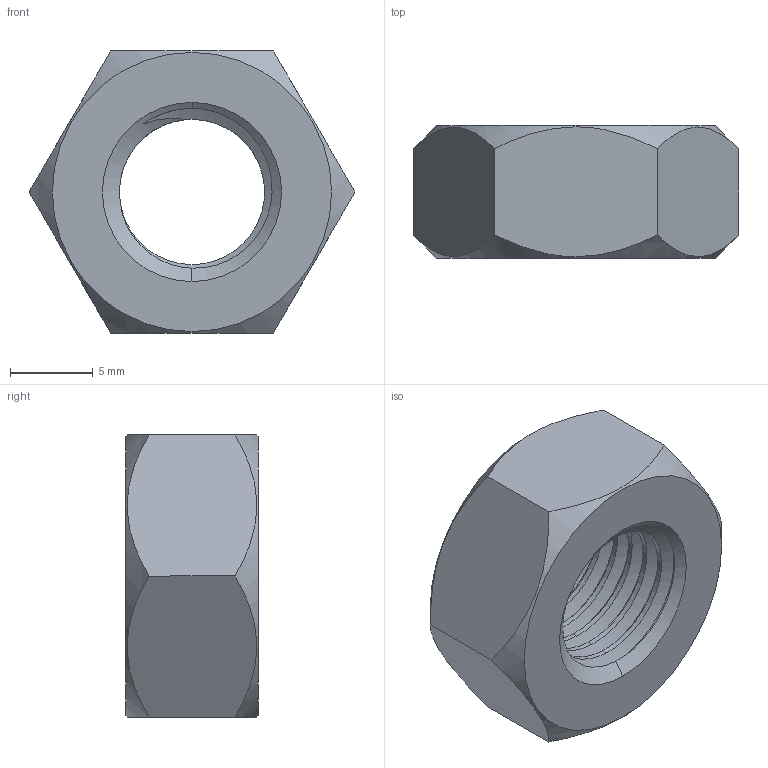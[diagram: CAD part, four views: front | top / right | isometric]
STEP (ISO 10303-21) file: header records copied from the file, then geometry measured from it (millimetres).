
FILE_DESCRIPTION (( 'STEP AP203' ), '1' );
FILE_NAME ('TANRM-304-M10x1.25.STEP', '2026-08-21T14:23:42', ( '' ), ( '' ), 'SwSTEP 2.0', 'SolidWorks 2020', '' );
FILE_SCHEMA (( 'CONFIG_CONTROL_DESIGN' ));
Length unit declared in the file: millimetre
Products named in the file (1): TANRM-304-M10x1.25
Bounding box: 19.63 x 8 x 17 mm (x, y, z)
Volume: 1417.6 mm3; surface area: 1137.4 mm2
Topology: 1 solids, 1 shells, 31 faces, 86 edges, 57 vertices
Faces by surface type: cylinder 12, cone 8, plane 8, bspline 3
Entity records: 2729 total; most frequent: CARTESIAN_POINT 1977, ORIENTED_EDGE 172, DIRECTION 105, EDGE_CURVE 86, VERTEX_POINT 57, AXIS2_PLACEMENT_3D 40, EDGE_LOOP 33, ADVANCED_FACE 31
